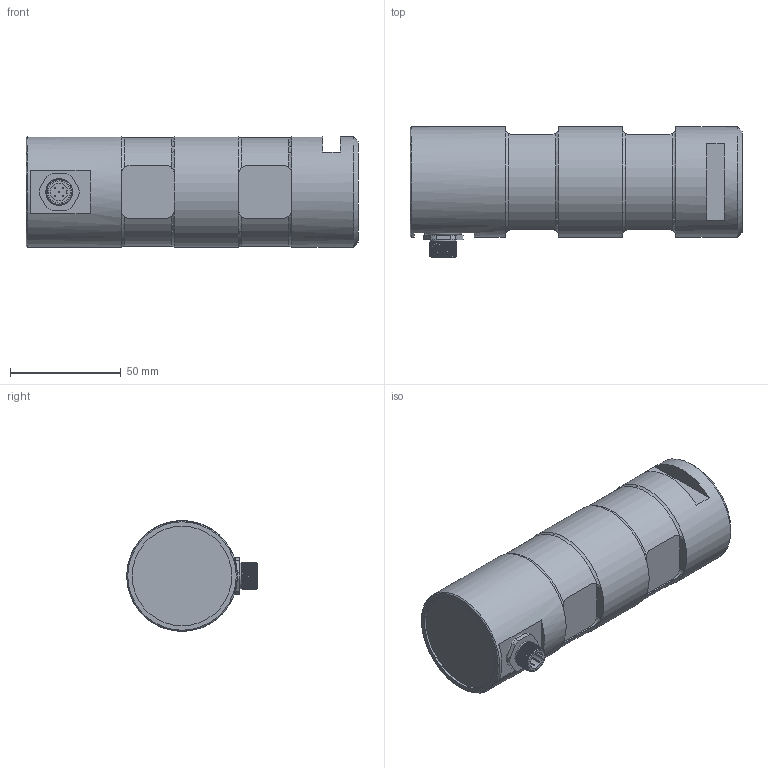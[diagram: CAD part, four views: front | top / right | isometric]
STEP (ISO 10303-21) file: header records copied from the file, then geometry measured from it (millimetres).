
FILE_DESCRIPTION(/* description */ ('Alibre Inc.'),/* implementation_level */ '2;1');
FILE_NAME(/* name */ 'export0',/* time_stamp */ '2015-12-03T10:03:10+01:00',/* author */ (''),/* organization */ (''),/* preprocessor_version */ 'ST-DEVELOPER v14',/* originating_system */ 'Alibre',/* authorisation */ '');
FILE_SCHEMA (('CONFIG_CONTROL_DESIGN'));
Length unit declared in the file: centimetre
Products named in the file (6): ID_1; ID_2; ID_3; ID_4
Bounding box: 150 x 59 x 50 mm (x, y, z)
Volume: 278672.2 mm3; surface area: 32580.8 mm2
Topology: 8 solids, 8 shells, 168 faces, 373 edges, 229 vertices
Faces by surface type: plane 71, cylinder 59, bspline 23, torus 9, cone 6
Full cylindrical faces by diameter (mm): 0.5 x8, 0.504 x1, 8 x2, 10 x3, 11.5 x1, 13 x1, 14.376 x1, 45 x1, 50 x3
Entity records: 16154 total; most frequent: CARTESIAN_POINT 12551, ORIENTED_EDGE 678, DIRECTION 451, EDGE_CURVE 334, VERTEX_POINT 219, FACE_BOUND 212, EDGE_LOOP 211, AXIS2_PLACEMENT_3D 202
